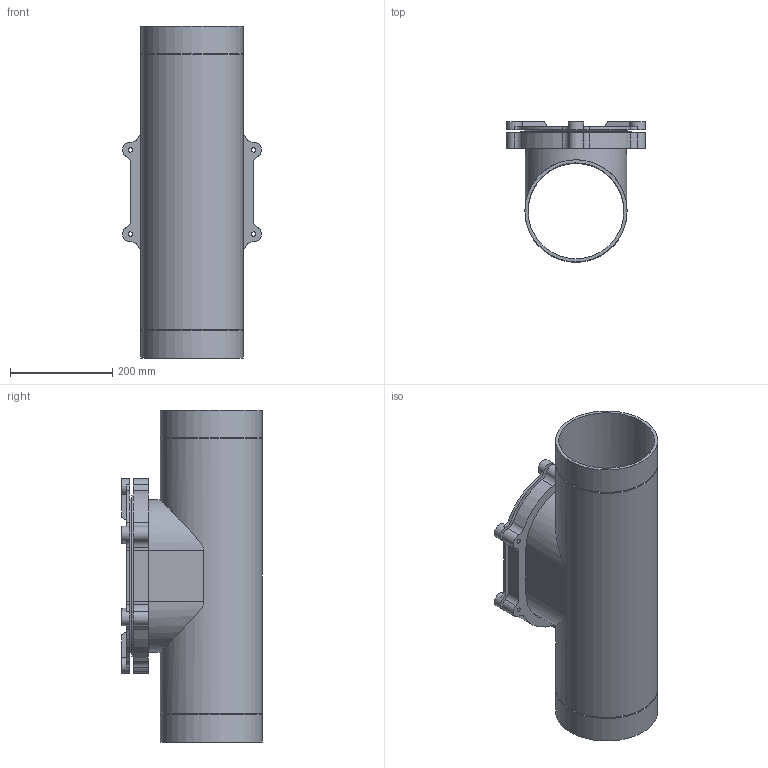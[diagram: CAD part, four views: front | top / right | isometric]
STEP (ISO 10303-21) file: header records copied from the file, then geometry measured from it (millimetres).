
FILE_DESCRIPTION(/* description */ (''),/* implementation_level */ '2;1');
FILE_NAME(/* name */ 'Z:\Geberit\Export\NewStep\370454.stp',/* time_stamp */ '2014-04-02T08:04:08+02:00',/* author */ ('Marco'),/* organization */ (''),/* preprocessor_version */ 'ST-DEVELOPER v15.2',/* originating_system */ 'Autodesk Inventor 2014',/* authorisation */ '');
FILE_SCHEMA (('AUTOMOTIVE_DESIGN { 1 0 10303 214 3 1 1 }'));
Length unit declared in the file: millimetre
Products named in the file (4): 853487; 853426; 853393; 370454
Bounding box: 271.4 x 275 x 650 mm (x, y, z)
Volume: 4199480.8 mm3; surface area: 1305963 mm2
Topology: 3 solids, 3 shells, 183 faces, 517 edges, 336 vertices
Faces by surface type: cylinder 87, plane 84, cone 8, bspline 4
Full cylindrical faces by diameter (mm): 8.376 x6, 12 x6, 30 x6, 187.6 x1, 200 x3
Entity records: 6399 total; most frequent: CARTESIAN_POINT 1525, DIRECTION 1031, ORIENTED_EDGE 984, EDGE_CURVE 485, AXIS2_PLACEMENT_3D 376, VERTEX_POINT 324, LINE 279, VECTOR 279
